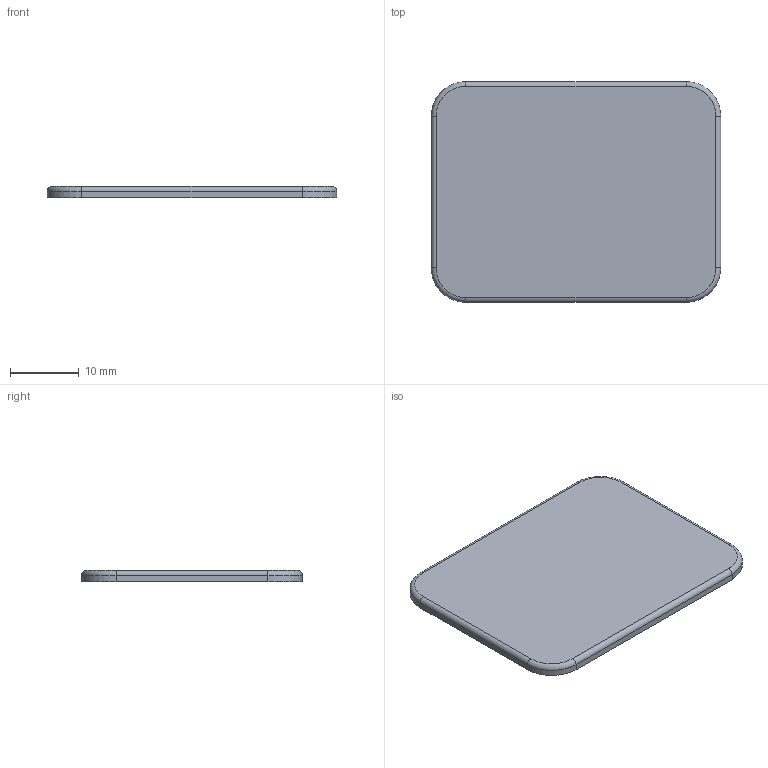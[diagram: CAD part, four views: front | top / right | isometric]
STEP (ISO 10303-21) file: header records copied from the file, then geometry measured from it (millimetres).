
FILE_DESCRIPTION(('Open CASCADE Model'),'2;1');
FILE_NAME('Open CASCADE Shape Model','2026-10-04T21:33:04',('Author'),( 'Open CASCADE'),'Open CASCADE STEP processor 7.9','Open CASCADE 7.9' ,'Unknown');
FILE_SCHEMA(('AUTOMOTIVE_DESIGN { 1 0 10303 214 1 1 1 1 }'));
Length unit declared in the file: millimetre
Products named in the file (1): Open CASCADE STEP translator 7.9 8
Bounding box: 42 x 32 x 1.6 mm (x, y, z)
Volume: 2101.5 mm3; surface area: 2826 mm2
Topology: 1 solids, 1 shells, 18 faces, 40 edges, 24 vertices
Faces by surface type: cylinder 8, plane 6, torus 4
Entity records: 1032 total; most frequent: CARTESIAN_POINT 215, DIRECTION 156, ORIENTED_EDGE 80, PCURVE 80, DEFINITIONAL_REPRESENTATION 80, LINE 76, VECTOR 76, EDGE_CURVE 40
